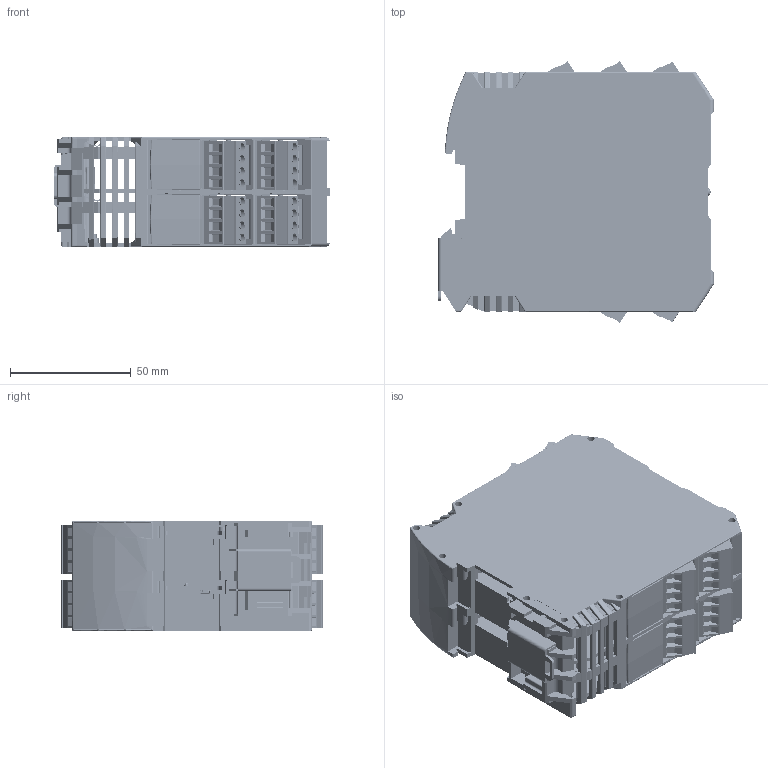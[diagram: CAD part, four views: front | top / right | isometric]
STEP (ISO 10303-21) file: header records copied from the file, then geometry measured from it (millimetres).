
FILE_DESCRIPTION (( 'STEP AP214' ), '1' );
FILE_NAME ('IOLM_DR-8-T.STEP', '2018-11-02T15:29:43', ( '' ), ( '' ), 'SwSTEP 2.0', 'SolidWorks 2018', '' );
FILE_SCHEMA (( 'AUTOMOTIVE_DESIGN' ));
Length unit declared in the file: inch
Products named in the file (1): IOLM_DR-8-T
Bounding box: 113.95 x 107.96 x 45.2 mm (x, y, z)
Volume: 141951.8 mm3; surface area: 183059 mm2
Topology: 58 solids, 63 shells, 9843 faces, 26748 edges, 17421 vertices
Faces by surface type: plane 6477, cylinder 2623, cone 397, bspline 334, torus 8, sphere 4
Entity records: 453063 total; most frequent: CARTESIAN_POINT 76502, ORIENTED_EDGE 53492, DIRECTION 49281, EDGE_CURVE 26746, LINE 18665, VECTOR 18665, VERTEX_POINT 17421, AXIS2_PLACEMENT_3D 15308
